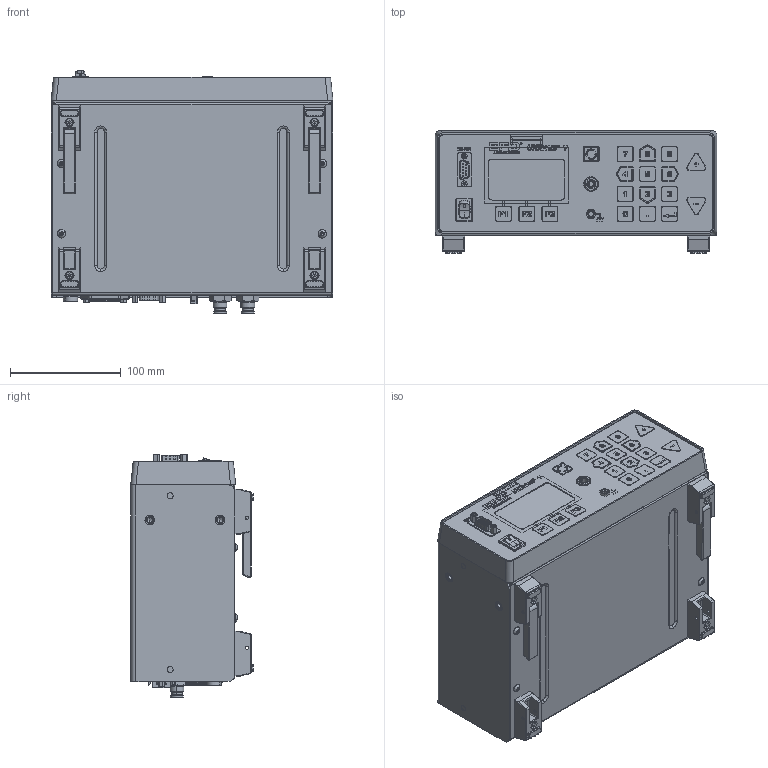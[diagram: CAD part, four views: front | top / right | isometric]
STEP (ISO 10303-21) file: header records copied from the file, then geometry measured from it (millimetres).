
FILE_DESCRIPTION (( 'STEP AP214' ), '1' );
FILE_NAME ('NORDSONEFD-7012590 DISPENSER ULTIMUS V 100PSI 7 BAR.STEP', '2015-10-14T13:22:21', ( 'Windows User' ), ( '' ), 'SwSTEP 2.0', 'SolidWorks 2015', '' );
FILE_SCHEMA (( 'AUTOMOTIVE_DESIGN' ));
Length unit declared in the file: inch
Products named in the file (1): NORDSONEFD-7012590 DISPENSER ULTIMUS V 100PSI 7 BAR
Bounding box: 255 x 110.91 x 220.56 mm (x, y, z)
Volume: 4723787.8 mm3; surface area: 229858 mm2
Topology: 3 solids, 3 shells, 7338 faces, 19054 edges, 12362 vertices
Faces by surface type: plane 3896, bspline 2082, cylinder 901, torus 221, cone 219, sphere 19
Entity records: 322345 total; most frequent: CARTESIAN_POINT 156715, ORIENTED_EDGE 38000, DIRECTION 27094, EDGE_CURVE 19000, VERTEX_POINT 12362, LINE 12194, VECTOR 12194, EDGE_LOOP 8064
